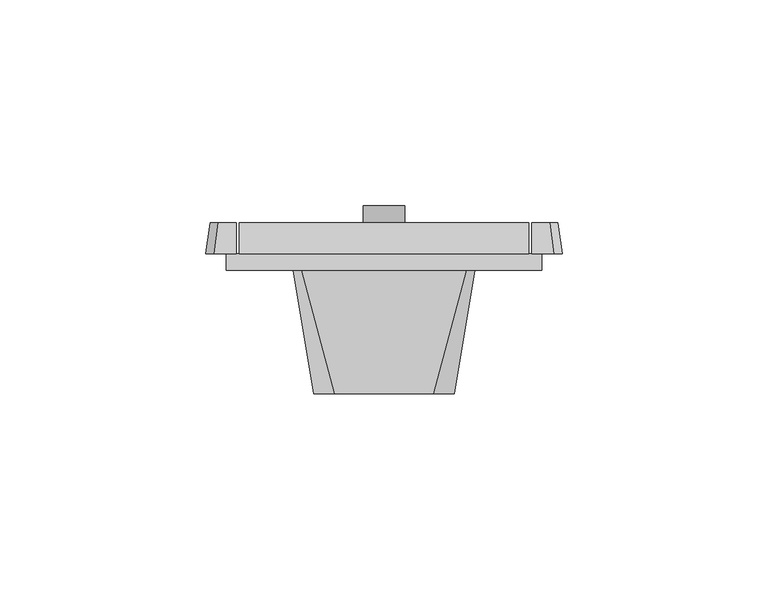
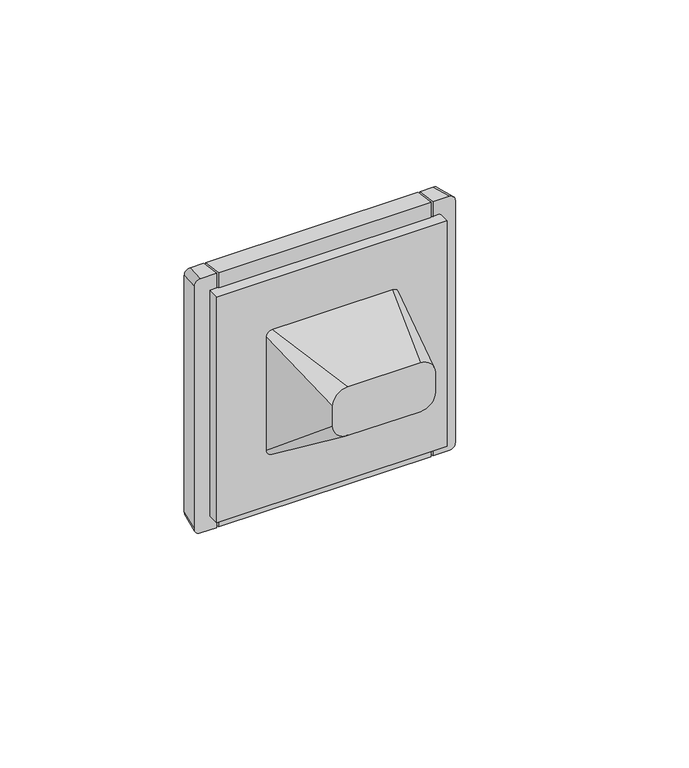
"""IFC4 building model written with IfcOpenShell, lengths in millimetres: proxy geometry, IEK_Forte&Piano_Розекта мультимедийная : TV О_FP128."""

from ifc_helpers import new_model, si_unit, point, frame, origin, origin_2d, place, context, project, spatial, polyline, circle_curve, trimmed, segment, composite_curve, outline, extrude, faceted_brep, source, transform, mapped, element, save
from ifc_brep_helpers import plane_surface, cylinder_surface, revolved_surface, extruded_surface, spline_surface, advanced_brep


def electrical_fixtures_0390371a(model_context):
    return source(origin(), model_context, "Body", "SolidModel", [
        extrude(outline(polyline([(22.7, -22.7), (-22.7, -22.7), (-22.7, 22.7), (22.7, 22.7), (22.7, -22.7)]), holes=[composite_curve([segment(trimmed(circle_curve(origin_2d(), 7.0), [point((0.0, 7.0))], [point((0.0, -7.0))], True, "CARTESIAN"), True, "CONTINUOUS"), segment(trimmed(circle_curve(origin_2d(), 7.0), [point((0.0, -7.0))], [point((0.0, 7.0))], True, "CARTESIAN"), True, "CONTINUOUS")], self_intersect=False)]), frame((0.0, 4.0, 0.0), z_axis=(0.0, 1.0, 0.0), x_axis=(0.0, 0.0, 1.0)), (0.0, 0.0, 1.0), 7.5),
        advanced_brep(
        [(-1.0543746, 10.4251664, 0.0), (1.0543746, 10.4251664, 0.0), (3.8412171, 10.4251664, 0.0), (-3.8412171, 10.4251664, 0.0), (3.8412171, 4.0, 0.0), (-3.8412171, 4.0, 0.0), (1.0543746, 4.0, 0.0), (-1.0543746, 4.0, 0.0)],
        [
            (0, 1, circle_curve(frame((0.0, 10.4251664, 0.0), z_axis=(0.0, -1.0, 0.0), x_axis=(1.0, 0.0, 0.0)), 1.0543746)),
            (1, 2),
            (2, 3, circle_curve(frame((0.0, 10.4251664, 0.0), z_axis=(0.0, 1.0, 0.0), x_axis=(1.0, 0.0, 0.0)), 3.8412171)),
            (3, 0),
            (1, 0, circle_curve(frame((0.0, 10.4251664, 0.0), z_axis=(0.0, -1.0, 0.0), x_axis=(1.0, 0.0, 0.0)), 1.0543746)),
            (3, 2, circle_curve(frame((0.0, 10.4251664, 0.0), z_axis=(0.0, 1.0, 0.0), x_axis=(1.0, 0.0, 0.0)), 3.8412171)),
            (2, 4),
            (4, 5, circle_curve(frame((0.0, 4.0, 0.0), z_axis=(0.0, 1.0, 0.0), x_axis=(1.0, 0.0, 0.0)), 3.8412171)),
            (5, 3),
            (5, 4, circle_curve(frame((0.0, 4.0, 0.0), z_axis=(0.0, 1.0, 0.0), x_axis=(1.0, 0.0, 0.0)), 3.8412171)),
            (4, 6),
            (6, 7, circle_curve(frame((0.0, 4.0, 0.0), z_axis=(0.0, 1.0, 0.0), x_axis=(1.0, 0.0, 0.0)), 1.0543746)),
            (7, 5),
            (7, 6, circle_curve(frame((0.0, 4.0, 0.0), z_axis=(0.0, 1.0, 0.0), x_axis=(1.0, 0.0, 0.0)), 1.0543746)),
            (6, 1),
            (0, 7),
        ],
        [
            plane_surface(frame((0.0, 10.4251664, 0.0), z_axis=(0.0, 1.0, 0.0), x_axis=(1.0, 0.0, 0.0))),
            cylinder_surface(frame((0.0, 1.5, 0.0), z_axis=(0.0, 1.0, 0.0), x_axis=(1.0, 0.0, 0.0)), 3.8412171),
            plane_surface(frame((0.0, 4.0, 0.0), z_axis=(0.0, -1.0, 0.0), x_axis=(1.0, 0.0, 0.0))),
            revolved_surface(polyline([(1.0543746, 10.4251664, 0.0), (1.0543746, 4.0, 0.0)]), (0.0, 1.5, 0.0), (0.0, 1.0, 0.0)),
        ],
        [
            (0, [[1, 2, 3, 4]]),
            (0, [[5, -4, 6, -2]]),
            (1, [[-3, 7, 8, 9]]),
            (1, [[-6, -9, 10, -7]]),
            (2, [[-8, 11, 12, 13]]),
            (2, [[-10, -13, 14, -11]]),
            (3, [[-12, 15, -1, 16]]),
            (3, [[-14, -16, -5, -15]]),
        ],
    ),
        advanced_brep(
        [(0.0, 14.7712404, 0.0), (0.9026489, 14.7712404, 0.0), (-0.9026489, 14.7712404, 0.0), (-0.9026489, 4.0, 0.0), (0.9026489, 4.0, 0.0), (0.0, 4.0, 0.0)],
        [
            (0, 1),
            (1, 2, circle_curve(frame((0.0, 14.7712404, 0.0), z_axis=(0.0, 1.0, 0.0), x_axis=(1.0, 0.0, 0.0)), 0.9026489)),
            (2, 0),
            (2, 1, circle_curve(frame((0.0, 14.7712404, 0.0), z_axis=(0.0, 1.0, 0.0), x_axis=(1.0, 0.0, 0.0)), 0.9026489)),
            (3, 4, circle_curve(frame((0.0, 4.0, 0.0), z_axis=(0.0, -1.0, 0.0), x_axis=(1.0, 0.0, 0.0)), 0.9026489)),
            (4, 5),
            (5, 3),
            (4, 3, circle_curve(frame((0.0, 4.0, 0.0), z_axis=(0.0, -1.0, 0.0), x_axis=(1.0, 0.0, 0.0)), 0.9026489)),
            (1, 4),
            (3, 2),
        ],
        [
            plane_surface(frame((0.0, 14.7712404, 0.0), z_axis=(0.0, 1.0, 0.0), x_axis=(1.0, 0.0, 0.0))),
            plane_surface(frame((0.0, 4.0, 0.0), z_axis=(0.0, -1.0, 0.0), x_axis=(1.0, 0.0, 0.0))),
            cylinder_surface(frame((0.0, 1.5, 0.0), z_axis=(0.0, 1.0, 0.0), x_axis=(1.0, 0.0, 0.0)), 0.9026489),
        ],
        [
            (0, [[1, 2, 3]]),
            (0, [[-3, 4, -1]]),
            (1, [[5, 6, 7]]),
            (1, [[8, -7, -6]]),
            (2, [[-2, 9, -5, 10]]),
            (2, [[-4, -10, -8, -9]]),
        ],
    ),
        advanced_brep(
        [(-5.0, 4.0, 0.0), (5.0, 4.0, 0.0), (4.0205306, 4.0, 0.0), (-4.0205306, 4.0, 0.0), (4.0205306, 12.5, 0.0), (-4.0205306, 12.5, 0.0), (4.0205306, 15.6430385, 0.0), (-4.0205306, 15.6430385, 0.0), (5.0, 15.6430385, 0.0), (-5.0, 15.6430385, 0.0)],
        [
            (0, 1, circle_curve(frame((0.0, 4.0, 0.0), z_axis=(0.0, -1.0, 0.0), x_axis=(1.0, 0.0, 0.0)), 5.0)),
            (1, 2),
            (2, 3, circle_curve(frame((0.0, 4.0, 0.0), z_axis=(0.0, 1.0, 0.0), x_axis=(1.0, 0.0, 0.0)), 4.0205306)),
            (3, 0),
            (1, 0, circle_curve(frame((0.0, 4.0, 0.0), z_axis=(0.0, -1.0, 0.0), x_axis=(1.0, 0.0, 0.0)), 5.0)),
            (3, 2, circle_curve(frame((0.0, 4.0, 0.0), z_axis=(0.0, 1.0, 0.0), x_axis=(1.0, 0.0, 0.0)), 4.0205306)),
            (2, 4),
            (4, 5, circle_curve(frame((0.0, 12.5, 0.0), z_axis=(0.0, 1.0, 0.0), x_axis=(1.0, 0.0, 0.0)), 4.0205306)),
            (5, 3),
            (5, 4, circle_curve(frame((0.0, 12.5, 0.0), z_axis=(0.0, 1.0, 0.0), x_axis=(1.0, 0.0, 0.0)), 4.0205306)),
            (4, 6),
            (6, 7, circle_curve(frame((0.0, 15.6430385, 0.0), z_axis=(0.0, 1.0, 0.0), x_axis=(1.0, 0.0, 0.0)), 4.0205306)),
            (7, 5),
            (7, 6, circle_curve(frame((0.0, 15.6430385, 0.0), z_axis=(0.0, 1.0, 0.0), x_axis=(1.0, 0.0, 0.0)), 4.0205306)),
            (6, 8),
            (8, 9, circle_curve(frame((0.0, 15.6430385, 0.0), z_axis=(0.0, 1.0, 0.0), x_axis=(1.0, 0.0, 0.0)), 5.0)),
            (9, 7),
            (9, 8, circle_curve(frame((0.0, 15.6430385, 0.0), z_axis=(0.0, 1.0, 0.0), x_axis=(1.0, 0.0, 0.0)), 5.0)),
            (8, 1),
            (0, 9),
        ],
        [
            plane_surface(frame((0.0, 4.0, 0.0), z_axis=(0.0, -1.0, 0.0), x_axis=(1.0, 0.0, 0.0))),
            revolved_surface(polyline([(4.0205306, 12.5, 0.0), (4.0205306, 4.0, 0.0)]), (0.0, 11.5, 0.0), (0.0, 1.0, 0.0)),
            revolved_surface(polyline([(4.0205306, 15.6430385, 0.0), (4.0205306, 12.5, 0.0)]), (0.0, 11.5, 0.0), (0.0, 1.0, 0.0)),
            plane_surface(frame((0.0, 15.6430385, 0.0), z_axis=(0.0, 1.0, 0.0), x_axis=(1.0, 0.0, 0.0))),
            cylinder_surface(frame((0.0, 11.5, 0.0), z_axis=(0.0, 1.0, 0.0), x_axis=(1.0, 0.0, 0.0)), 5.0),
        ],
        [
            (0, [[1, 2, 3, 4]]),
            (0, [[5, -4, 6, -2]]),
            (1, [[-3, 7, 8, 9]]),
            (1, [[-6, -9, 10, -7]]),
            (2, [[-8, 11, 12, 13]]),
            (2, [[-10, -13, 14, -11]]),
            (3, [[-12, 15, 16, 17]]),
            (3, [[-14, -17, 18, -15]]),
            (4, [[-16, 19, -1, 20]]),
            (4, [[-18, -20, -5, -19]]),
        ],
    ),
        faceted_brep([(35.2, 11.5, 43.5), (35.2, 4.0, 44.5), (35.2, 4.0, -44.5), (35.2, 11.5, -43.5), (-35.2, 11.5, 43.5), (-35.2, 11.5, -43.5), (-35.2, 4.0, -44.5), (-35.2, 4.0, 44.5), (-23.5, 4.0, 23.5), (23.5, 4.0, 23.5), (23.5, 4.0, -23.5), (-23.5, 4.0, -23.5), (23.5, 11.5, 23.5), (-23.5, 11.5, 23.5), (-23.5, 11.5, -23.5), (23.5, 11.5, -23.5)], [[[0, 1, 2, 3]], [[4, 5, 6, 7]], [[1, 0, 4, 7]], [[2, 1, 7, 6], [8, 9, 10, 11]], [[3, 2, 6, 5]], [[0, 3, 5, 4], [12, 13, 14, 15]], [[8, 13, 12, 9]], [[9, 12, 15, 10]], [[10, 15, 14, 11]], [[13, 8, 11, 14]]]),
        advanced_brep(
        [(35.8576533, 11.5, 43.5), (35.8576533, 11.5, -43.5), (35.8576533, 4.0, -44.5), (35.8576533, 4.0, -39.5), (35.8576533, 4.0, 39.5), (35.8576533, 4.0, 44.5), (-35.8576533, 11.5, -43.5), (-35.8576533, 11.5, 43.5), (-35.8576533, 4.0, 44.5), (-35.8576533, 4.0, 39.5), (-35.8576533, 4.0, -39.5), (-35.8576533, 4.0, -44.5), (40.25, 11.5, 43.5), (42.25, 11.5, 41.5), (42.25, 11.5, -41.5), (40.25, 11.5, -43.5), (-40.25, 11.5, -43.5), (-42.25, 11.5, -41.5), (-42.25, 11.5, 41.5), (-40.25, 11.5, 43.5), (-41.25, 4.0, 44.5), (-43.25, 4.0, 42.5), (-43.25, 4.0, -42.5), (-41.25, 4.0, -44.5), (-38.25, 4.0, -39.5), (-38.25, 4.0, 39.5), (41.25, 4.0, -44.5), (43.25, 4.0, -42.5), (43.25, 4.0, 42.5), (41.25, 4.0, 44.5), (38.25, 4.0, 39.5), (38.25, 4.0, -39.5), (-38.25, 0.0, 39.5), (-38.25, 0.0, -39.5), (38.25, 0.0, -39.5), (38.25, 0.0, 39.5)],
        [
            (0, 1),
            (1, 2),
            (2, 3),
            (3, 4),
            (4, 5),
            (5, 0),
            (6, 7),
            (7, 8),
            (8, 9),
            (9, 10),
            (10, 11),
            (11, 6),
            (12, 13, circle_curve(frame((40.25, 11.5, 41.5), z_axis=(0.0, 1.0, 0.0), x_axis=(-1.0, 0.0, 0.0)), 2.0)),
            (13, 14),
            (14, 15, circle_curve(frame((40.25, 11.5, -41.5), z_axis=(0.0, 1.0, 0.0), x_axis=(-1.0, 0.0, 0.0)), 2.0)),
            (15, 1),
            (0, 12),
            (16, 17, circle_curve(frame((-40.25, 11.5, -41.5), z_axis=(0.0, 1.0, 0.0), x_axis=(-1.0, 0.0, 0.0)), 2.0)),
            (17, 18),
            (18, 19, circle_curve(frame((-40.25, 11.5, 41.5), z_axis=(0.0, 1.0, 0.0), x_axis=(-1.0, 0.0, 0.0)), 2.0)),
            (19, 7),
            (6, 16),
            (20, 21, circle_curve(frame((-41.25, 4.0, 42.5), z_axis=(0.0, -1.0, 0.0), x_axis=(-1.0, 0.0, 0.0)), 2.0)),
            (21, 22),
            (22, 23, circle_curve(frame((-41.25, 4.0, -42.5), z_axis=(0.0, -1.0, 0.0), x_axis=(-1.0, 0.0, 0.0)), 2.0)),
            (23, 11),
            (10, 24),
            (24, 25),
            (25, 9),
            (8, 20),
            (26, 27, circle_curve(frame((41.25, 4.0, -42.5), z_axis=(0.0, -1.0, 0.0), x_axis=(-1.0, 0.0, 0.0)), 2.0)),
            (27, 28),
            (28, 29, circle_curve(frame((41.25, 4.0, 42.5), z_axis=(0.0, -1.0, 0.0), x_axis=(-1.0, 0.0, 0.0)), 2.0)),
            (29, 5),
            (4, 30),
            (30, 31),
            (31, 3),
            (2, 26),
            (29, 12),
            (19, 20),
            (28, 13),
            (27, 14),
            (26, 15),
            (23, 16),
            (22, 17),
            (21, 18),
            (3, 10),
            (9, 4),
            (32, 33),
            (33, 34),
            (34, 35),
            (35, 32),
            (32, 25),
            (24, 33),
            (31, 34),
            (30, 35),
        ],
        [
            plane_surface(frame((35.8576533, 11.5, 44.5), z_axis=(-1.0, 0.0, 0.0), x_axis=(0.0, -1.0, 0.0))),
            plane_surface(frame((-35.8576533, 11.5, -44.5), z_axis=(1.0, 0.0, 0.0), x_axis=(0.0, -1.0, 0.0))),
            plane_surface(frame((0.0, 11.5, 0.0), z_axis=(0.0, 1.0, 0.0), x_axis=(1.0, 0.0, 0.0))),
            plane_surface(frame((0.0, 4.0, 0.0), z_axis=(0.0, -1.0, 0.0), x_axis=(1.0, 0.0, 0.0))),
            plane_surface(frame((0.0, 4.0, 44.5), z_axis=(0.0, 0.13216372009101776, 0.9912279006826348), x_axis=(1.0, 0.0, 0.0))),
            extruded_surface(trimmed(circle_curve(frame((41.25, 4.0, 42.5), z_axis=(0.0, 1.0, 0.0), x_axis=(-1.0, 0.0, 0.0)), 2.0), [point((41.25, 4.0, 44.5))], [point((43.25, 4.0, 42.5))], True, "CARTESIAN"), (-1.0, 7.5, -1.0), 7.632168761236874),
            plane_surface(frame((43.25, 4.0, 0.0), z_axis=(0.9912279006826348, 0.13216372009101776, 0.0), x_axis=(0.0, 0.0, -1.0))),
            extruded_surface(trimmed(circle_curve(frame((41.25, 4.0, -42.5), z_axis=(0.0, 1.0, 0.0), x_axis=(-1.0, 0.0, 0.0)), 2.0), [point((43.25, 4.0, -42.5))], [point((41.25, 4.0, -44.5))], True, "CARTESIAN"), (-1.0, 7.5, 1.0), 7.632168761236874),
            plane_surface(frame((0.0, 4.0, -44.5), z_axis=(0.0, 0.13216372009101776, -0.9912279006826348), x_axis=(-1.0, 0.0, 0.0))),
            extruded_surface(trimmed(circle_curve(frame((-41.25, 4.0, -42.5), z_axis=(0.0, 1.0, 0.0), x_axis=(-1.0, 0.0, 0.0)), 2.0), [point((-41.25, 4.0, -44.5))], [point((-43.25, 4.0, -42.5))], True, "CARTESIAN"), (1.0, 7.5, 1.0), 7.632168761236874),
            plane_surface(frame((-43.25, 4.0, 0.0), z_axis=(-0.9912279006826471, 0.13216372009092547, 0.0), x_axis=(0.0, 0.0, 1.0))),
            extruded_surface(trimmed(circle_curve(frame((-41.25, 4.0, 42.5), z_axis=(0.0, 1.0, 0.0), x_axis=(-1.0, 0.0, 0.0)), 2.0), [point((-43.25, 4.0, 42.5))], [point((-41.25, 4.0, 44.5))], True, "CARTESIAN"), (1.0, 7.5, -1.0), 7.632168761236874),
            plane_surface(frame((-38.25, 4.0, 39.5), z_axis=(0.0, 1.0, 0.0), x_axis=(0.0, 0.0, 1.0))),
            plane_surface(frame((-38.25, 0.0, 39.5), z_axis=(0.0, -1.0, 0.0), x_axis=(0.0, 0.0, -1.0))),
            plane_surface(frame((-38.25, 0.0, 39.5), z_axis=(-1.0, 0.0, 0.0), x_axis=(0.0, 1.0, 0.0))),
            plane_surface(frame((-38.25, 0.0, -39.5), z_axis=(0.0, 0.0, -1.0), x_axis=(0.0, 1.0, 0.0))),
            plane_surface(frame((38.25, 0.0, -39.5), z_axis=(1.0, 0.0, 0.0), x_axis=(0.0, 1.0, 0.0))),
            plane_surface(frame((38.25, 0.0, 39.5), z_axis=(0.0, 0.0, 1.0), x_axis=(0.0, 1.0, 0.0))),
        ],
        [
            (0, [[1, 2, 3, 4, 5, 6]]),
            (1, [[7, 8, 9, 10, 11, 12]]),
            (2, [[13, 14, 15, 16, -1, 17]]),
            (2, [[18, 19, 20, 21, -7, 22]]),
            (3, [[23, 24, 25, 26, -11, 27, 28, 29, -9, 30]]),
            (3, [[31, 32, 33, 34, -5, 35, 36, 37, -3, 38]]),
            (4, [[39, -17, -6, -34]]),
            (4, [[40, -30, -8, -21]]),
            (5, [[-13, -39, -33, 41]]),
            (6, [[-14, -41, -32, 42]]),
            (7, [[-15, -42, -31, 43]]),
            (8, [[-43, -38, -2, -16]]),
            (8, [[44, -22, -12, -26]]),
            (9, [[-18, -44, -25, 45]]),
            (10, [[-19, -45, -24, 46]]),
            (11, [[-20, -46, -23, -40]]),
            (12, [[47, -10, 48, -4]]),
            (13, [[49, 50, 51, 52]]),
            (14, [[-49, 53, -28, 54]]),
            (15, [[-50, -54, -27, -47, -37, 55]]),
            (16, [[-51, -55, -36, 56]]),
            (17, [[-52, -56, -35, -48, -29, -53]]),
        ],
    ),
        advanced_brep(
        [(-12.0, -30.0, 17.0), (-17.0, -30.0, 12.0), (-17.0, -30.0, 5.0), (-12.0, -30.0, 0.0), (12.0, -30.0, 0.0), (17.0, -30.0, 5.0), (17.0, -30.0, 12.0), (12.0, -30.0, 17.0), (-20.0, 0.0, 22.0), (20.0, 0.0, 22.0), (22.0, 0.0, 20.0), (22.0, 0.0, -20.0), (20.0, 0.0, -22.0), (-20.0, 0.0, -22.0), (-22.0, 0.0, -20.0), (-22.0, 0.0, 20.0)],
        [
            (0, 1, circle_curve(frame((-12.0, -30.0, 12.0), z_axis=(0.0, -1.0, 0.0), x_axis=(1.0, 0.0, 0.0)), 5.0)),
            (1, 2),
            (2, 3, circle_curve(frame((-12.0, -30.0, 5.0), z_axis=(0.0, -1.0, 0.0), x_axis=(1.0, 0.0, 0.0)), 5.0)),
            (3, 4),
            (4, 5, circle_curve(frame((12.0, -30.0, 5.0), z_axis=(0.0, -1.0, 0.0), x_axis=(1.0, 0.0, 0.0)), 5.0)),
            (5, 6),
            (6, 7, circle_curve(frame((12.0, -30.0, 12.0), z_axis=(0.0, -1.0, 0.0), x_axis=(1.0, 0.0, 0.0)), 5.0)),
            (7, 0),
            (8, 9),
            (9, 10, circle_curve(frame((20.0, 0.0, 20.0), z_axis=(0.0, 1.0, 0.0), x_axis=(1.0, 0.0, 0.0)), 2.0)),
            (10, 11),
            (11, 12, circle_curve(frame((20.0, 0.0, -20.0), z_axis=(0.0, 1.0, 0.0), x_axis=(1.0, 0.0, 0.0)), 2.0)),
            (12, 13),
            (13, 14, circle_curve(frame((-20.0, 0.0, -20.0), z_axis=(0.0, 1.0, 0.0), x_axis=(1.0, 0.0, 0.0)), 2.0)),
            (14, 15),
            (15, 8, circle_curve(frame((-20.0, 0.0, 20.0), z_axis=(0.0, 1.0, 0.0), x_axis=(1.0, 0.0, 0.0)), 2.0)),
            (8, 0),
            (7, 9),
            (6, 10),
            (5, 11),
            (4, 12),
            (3, 13),
            (2, 14),
            (1, 15),
        ],
        [
            plane_surface(frame((0.0, -30.0, 8.5), z_axis=(0.0, -1.0, 0.0), x_axis=(-1.0, 0.0, 0.0))),
            plane_surface(frame((0.0, 0.0, 0.0), z_axis=(0.0, 1.0, 0.0), x_axis=(-1.0, 0.0, 0.0))),
            plane_surface(frame((0.0, 0.0, 22.0), z_axis=(0.0, -0.16439898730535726, 0.9863939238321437), x_axis=(-1.0, 0.0, 0.0))),
            spline_surface(2, 1, [[(22.0, 0.0, 20.0), (17.0, -30.0, 12.0)], [(22.0, 0.0, 22.0), (17.0, -30.0, 17.0)], [(20.0, 0.0, 22.0), (12.0, -30.0, 17.0)]], [3, 3], [2, 2], [0.0, 1.0], [0.0, 1.0], weights=[[1.0, 1.0], [0.7071067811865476, 0.7071067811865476], [1.0, 1.0]]),
            plane_surface(frame((22.0, 0.0, 0.0), z_axis=(0.9863939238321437, -0.1643989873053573, 0.0), x_axis=(0.0, 0.0, 1.0))),
            spline_surface(2, 1, [[(20.0, 0.0, -22.0), (12.0, -30.0, 0.0)], [(22.0, 0.0, -22.0), (17.0, -30.0, 0.0)], [(22.0, 0.0, -20.0), (17.0, -30.0, 5.0)]], [3, 3], [2, 2], [0.0, 1.0], [0.0, 1.0], weights=[[1.0, 1.0], [0.7071067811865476, 0.7071067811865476], [1.0, 1.0]]),
            plane_surface(frame((0.0, 0.0, -22.0), z_axis=(0.0, -0.591363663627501, -0.8064049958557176), x_axis=(1.0, 0.0, 0.0))),
            spline_surface(2, 1, [[(-22.0, 0.0, -20.0), (-17.0, -30.0, 5.0)], [(-22.0, 0.0, -22.0), (-17.0, -30.0, 0.0)], [(-20.0, 0.0, -22.0), (-12.0, -30.0, 0.0)]], [3, 3], [2, 2], [0.0, 1.0], [0.0, 1.0], weights=[[1.0, 1.0], [0.7071067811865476, 0.7071067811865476], [1.0, 1.0]]),
            plane_surface(frame((-22.0, 0.0, 0.0), z_axis=(-0.9863939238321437, -0.1643989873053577, 0.0), x_axis=(0.0, 0.0, -1.0))),
            spline_surface(2, 1, [[(-20.0, 0.0, 22.0), (-12.0, -30.0, 17.0)], [(-22.0, 0.0, 22.0), (-17.0, -30.0, 17.0)], [(-22.0, 0.0, 20.0), (-17.0, -30.0, 12.0)]], [3, 3], [2, 2], [0.0, 1.0], [0.0, 1.0], weights=[[1.0, 1.0], [0.7071067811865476, 0.7071067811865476], [1.0, 1.0]]),
        ],
        [
            (0, [[1, 2, 3, 4, 5, 6, 7, 8]]),
            (1, [[9, 10, 11, 12, 13, 14, 15, 16]]),
            (2, [[-9, 17, -8, 18]]),
            (3, [[-10, -18, -7, 19]]),
            (4, [[-11, -19, -6, 20]]),
            (5, [[-12, -20, -5, 21]]),
            (6, [[-13, -21, -4, 22]]),
            (7, [[-14, -22, -3, 23]]),
            (8, [[-15, -23, -2, 24]]),
            (9, [[-16, -24, -1, -17]]),
        ],
    ),
    ])


if __name__ == "__main__":
    model = new_model("IFC4")
    model_context = context("Model", 3, world=origin())
    ifc_project = project(units=[si_unit("LENGTHUNIT", "METRE", prefix="MILLI")], contexts=[model_context])
    site = spatial("IfcSite", under=ifc_project)
    building = spatial("IfcBuilding", under=site)
    placement = place(None, origin())
    electrical_fixtures_shape = electrical_fixtures_0390371a(model_context)
    element("IfcBuildingElementProxy", 1, Name="IEK_Forte&Piano_Розекта мультимедийная : TV О_FP128", ObjectType="IEK_Forte&Piano_Розекта мультимедийная : TV О_FP128", at=placement, inside=building, context=model_context, shape_type="MappedRepresentation", body=[
        mapped(electrical_fixtures_shape, transform((0.0, 0.0, 0.0), x_axis=(1.0, 0.0, 0.0), y_axis=(0.0, 1.0, 0.0), z_axis=(0.0, 0.0, 1.0))),
    ])
    save(model, "model.ifc")
